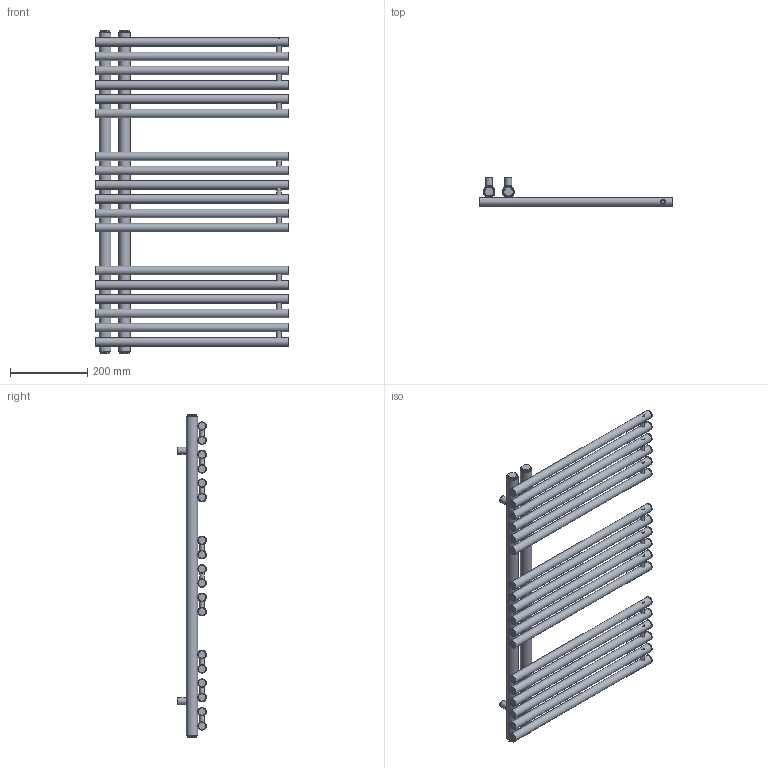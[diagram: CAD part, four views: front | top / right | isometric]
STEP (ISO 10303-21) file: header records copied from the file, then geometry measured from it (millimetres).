
FILE_DESCRIPTION(/* description */ (''),/* implementation_level */ '2;1');
FILE_NAME(/* name */ 'C:\Grzejniki\13DLUXRAD\łazienkowe\MODEL E\MODEL E 827x500.iam.stp',/* time_stamp */ '2016-06-28T17:35:24+02:00',/* author */ ('m.szydziak'),/* organization */ (''),/* preprocessor_version */ 'ST-DEVELOPER v16.5',/* originating_system */ 'Autodesk Inventor 2017',/* authorisation */ '');
FILE_SCHEMA (('AUTOMOTIVE_DESIGN { 1 0 10303 214 3 1 1 }'));
Length unit declared in the file: millimetre
Products named in the file (7): MODEL E 827x500; fi30x1,5x827; %%c22x1,2x500; uchwyt stały; zaślepka fi30 G0,5inch; korek; %%c18x1,5x54
Assembly tree (41 placements, depth 2):
  MODEL E 827x500
    fi30x1,5x827  x2
    %%c22x1,2x500  x18
    uchwyt stały  x4
    zaślepka fi30 G0,5inch  x4
    korek  x4
    %%c18x1,5x54  x9
Bounding box: 500 x 74 x 839 mm (x, y, z)
Volume: 982316.5 mm3; surface area: 1545021.8 mm2
Topology: 41 solids, 59 shells, 280 faces, 580 edges, 418 vertices
Faces by surface type: plane 166, cylinder 114
Full cylindrical faces by diameter (mm): 5 x36, 9 x9, 12 x9, 15 x4, 18 x4, 18.631 x4, 19.6 x18, 22 x18, 24 x4, 27 x6, 30 x2
Entity records: 3211 total; most frequent: CARTESIAN_POINT 1537, DIRECTION 296, ORIENTED_EDGE 222, AXIS2_PLACEMENT_3D 136, EDGE_LOOP 128, EDGE_CURVE 111, VERTEX_POINT 99, FACE_BOUND 73
